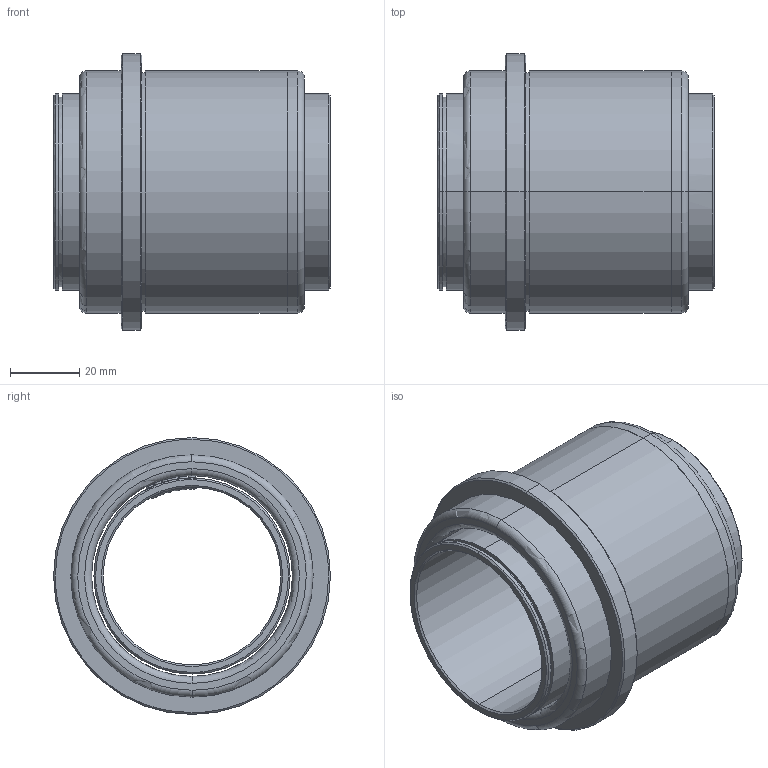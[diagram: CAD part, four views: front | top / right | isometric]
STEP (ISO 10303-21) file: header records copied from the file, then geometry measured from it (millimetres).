
FILE_DESCRIPTION(('CATIA V5 STEP Exchange'),'2;1');
FILE_NAME('C:\Users\Utente\Desktop\IO LAVORO\3D X SITO CF\X SITO\732\732-50.stp','2021-01-10T19:18:07+00:00',('none'),('none'),'CATIA Version 5 Release 20 GA (IN-10)','CATIA V5 STEP AP203','none');
FILE_SCHEMA(('CONFIG_CONTROL_DESIGN'));
Length unit declared in the file: millimetre
Products named in the file (1): 732-50
Assembly tree (2 placements, depth 2):
  732-50
    #58
    #1567
Bounding box: 80 x 80 x 80 mm (x, y, z)
Volume: 120554.5 mm3; surface area: 58681.4 mm2
Topology: 2 solids, 2 shells, 74 faces, 247 edges, 193 vertices
Faces by surface type: sphere 24, cylinder 20, cone 12, plane 10, torus 8
Entity records: 3327 total; most frequent: CARTESIAN_POINT 1127, ORIENTED_EDGE 494, DIRECTION 340, EDGE_CURVE 247, AXIS2_PLACEMENT_3D 228, VERTEX_POINT 193, CIRCLE 150, EDGE_LOOP 94
